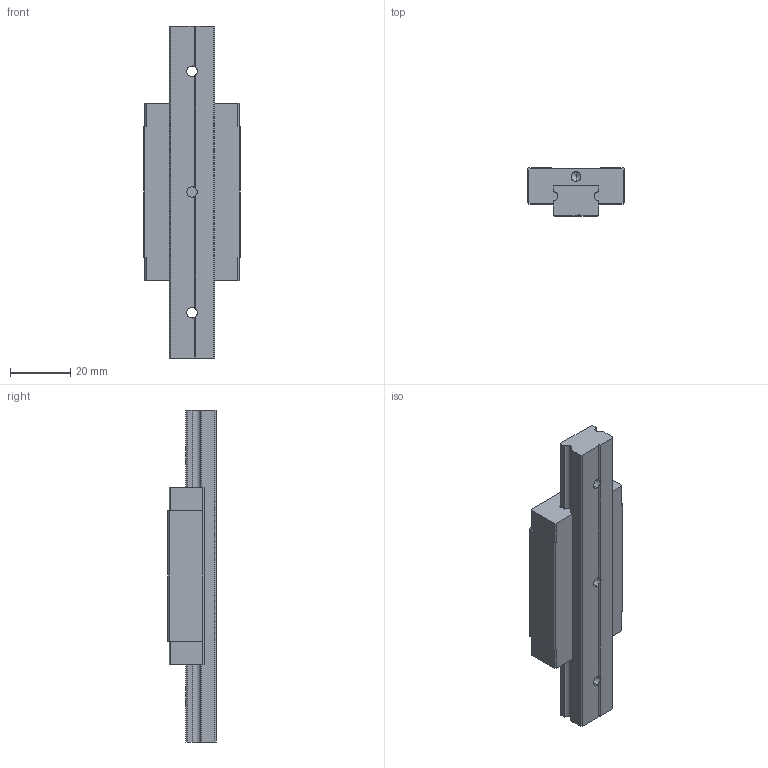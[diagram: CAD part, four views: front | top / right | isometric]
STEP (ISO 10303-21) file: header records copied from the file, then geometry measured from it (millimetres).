
FILE_DESCRIPTION (( 'STEP AP214' ), '1' );
FILE_NAME ('2.1063 Lineaarikelkka MGN15H.STEP', '2025-09-19T06:53:09', ( '' ), ( '' ), 'SwSTEP 2.0', 'SolidWorks 2025', '' );
FILE_SCHEMA (( 'AUTOMOTIVE_DESIGN' ));
Length unit declared in the file: millimetre
Products named in the file (1): 2.1063 Lineaarikelkka MGN15H
Bounding box: 32 x 16 x 110 mm (x, y, z)
Volume: 32178.1 mm3; surface area: 13301.5 mm2
Topology: 2 solids, 2 shells, 101 faces, 283 edges, 180 vertices
Faces by surface type: plane 53, cylinder 36, cone 12
Entity records: 4524 total; most frequent: CARTESIAN_POINT 769, DIRECTION 545, ORIENTED_EDGE 542, EDGE_CURVE 271, LINE 189, VECTOR 189, VERTEX_POINT 180, AXIS2_PLACEMENT_3D 178
